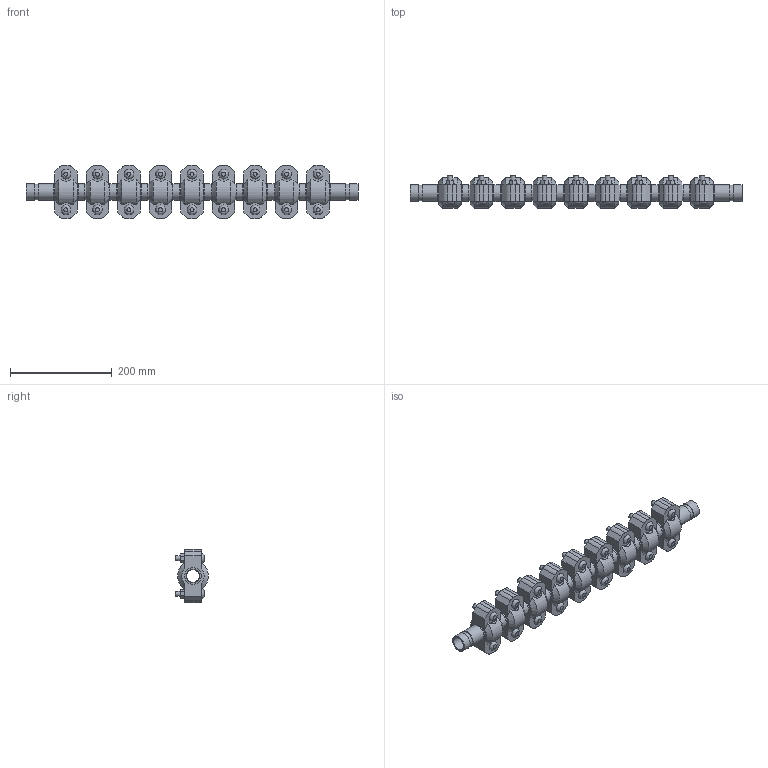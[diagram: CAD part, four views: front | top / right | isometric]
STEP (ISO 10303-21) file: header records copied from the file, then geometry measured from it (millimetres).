
FILE_DESCRIPTION(/* description */ ('VIC EXPANSION JOINT 9 COUPLINGS EXPANDED STYLE 155 (OGS)','CAx-IF Rec.Pracs.---Representation and Presentation of Product Manufacturing Information (PMI)---4.0---2014-10-13'),/* implementation_level */ '2;1');
FILE_NAME(/* name */ 'C:\Users\kkamble\AppData\Roaming\Autodesk\ApplicationPlugins\Victaulic.Temp\A90\Victaulic_IPS_Expansion Joint_Expanded_9 Couplings_Style 155 (OGS)_1 (25).stp',/* time_stamp */ '2021-06-27T00:10:48+02:00',/* author */ ('kkamble'),/* organization */ ('Victaulic'),/* preprocessor_version */ 'ST-DEVELOPER v17.2',/* originating_system */ 'Autodesk Inventor 2019',/* authorisation */ '');
FILE_SCHEMA (('AP242_MANAGED_MODEL_BASED_3D_ENGINEERING_MIM_LF { 1 0 10303 442 1 1 4 }'));
Length unit declared in the file: inch
Products named in the file (4): 155-01.0; Nipple-01.0; Nipple-01.0_1; 077-01.0
Assembly tree (19 placements, depth 2):
  155-01.0
    Nipple-01.0  x2
    Nipple-01.0_1  x8
    077-01.0  x9
Bounding box: 652.53 x 64.33 x 104.65 mm (x, y, z)
Volume: 1490936.7 mm3; surface area: 396094.6 mm2
Topology: 19 solids, 37 shells, 669 faces, 1605 edges, 1122 vertices
Faces by surface type: plane 384, cylinder 231, cone 36, bspline 18
Full cylindrical faces by diameter (mm): 9.525 x36, 11.43 x18, 24.511 x9, 26.645 x10, 30.226 x20, 33.401 x48
Entity records: 3049 total; most frequent: CARTESIAN_POINT 579, DIRECTION 501, ORIENTED_EDGE 410, EDGE_CURVE 205, AXIS2_PLACEMENT_3D 202, VERTEX_POINT 146, EDGE_LOOP 111, LINE 97
